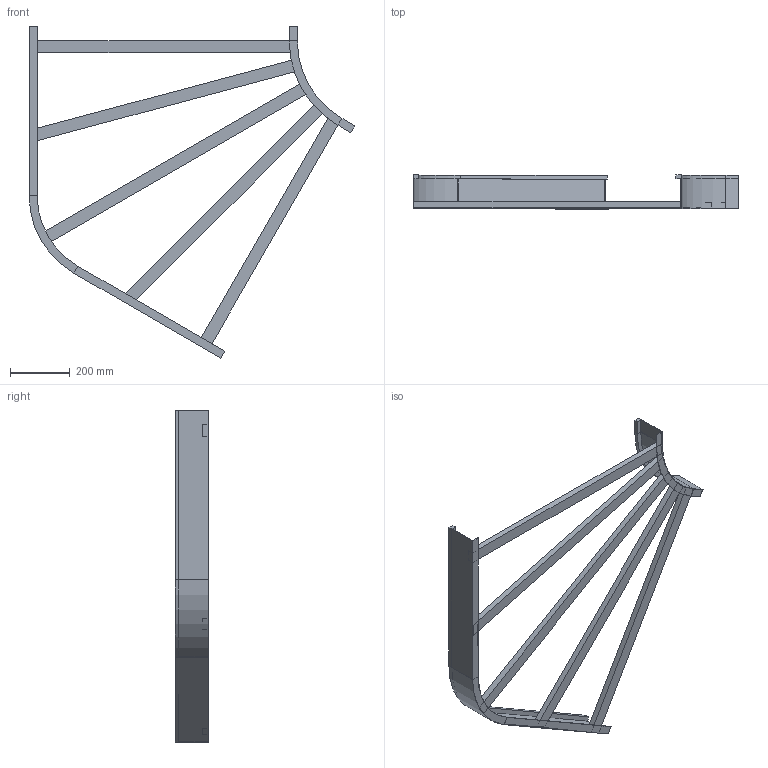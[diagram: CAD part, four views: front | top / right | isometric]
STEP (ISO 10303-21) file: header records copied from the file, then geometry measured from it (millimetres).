
FILE_DESCRIPTION (( 'STEP AP214' ), '1' );
FILE_NAME ('B2_13B3J900.step', '2025-02-21T15:20:22', ( '' ), ( '' ), 'SwSTEP 2.0', 'SolidWorks 2023', '' );
FILE_SCHEMA (( 'AUTOMOTIVE_DESIGN' ));
Length unit declared in the file: millimetre
Products named in the file (6): TRAVERSINO_1000_SCANTONATO; B2_13B3J900; B2_LONGH.ESTERNO 60°_H112.5_R300+900; TRAVERSINO_900; B2_LONGH.INTERNO 60°_H112.5_R300; TRAVERSINO_L1033
Assembly tree (7 placements, depth 2):
  B2_13B3J900
    B2_LONGH.INTERNO 60°_H112.5_R300
    B2_LONGH.ESTERNO 60°_H112.5_R300+900
    TRAVERSINO_900  x2
    TRAVERSINO_1000_SCANTONATO  x2
    TRAVERSINO_L1033
Bounding box: 1093.3 x 112.5 x 1114.23 mm (x, y, z)
Volume: 4675905.4 mm3; surface area: 1159050.4 mm2
Topology: 7 solids, 7 shells, 82 faces, 172 edges, 104 vertices
Faces by surface type: plane 74, cylinder 8
Entity records: 2015 total; most frequent: DIRECTION 324, CARTESIAN_POINT 316, ORIENTED_EDGE 296, EDGE_CURVE 148, VECTOR 132, LINE 132, AXIS2_PLACEMENT_3D 96, VERTEX_POINT 88
